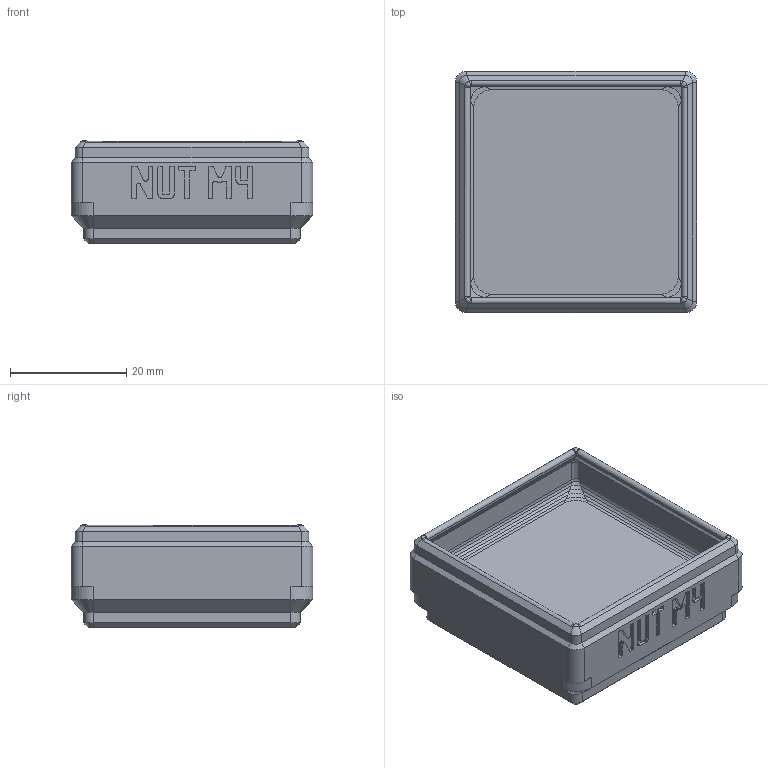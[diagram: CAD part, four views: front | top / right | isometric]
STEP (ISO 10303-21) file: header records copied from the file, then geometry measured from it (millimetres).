
FILE_DESCRIPTION(('Open CASCADE Model'),'2;1');
FILE_NAME('Open CASCADE Shape Model','2026-11-03T14:04:37',('Author'),( 'Open CASCADE'),'Open CASCADE STEP processor 8.0','build123d', 'Unknown');
FILE_SCHEMA(('AUTOMOTIVE_DESIGN { 1 0 10303 214 1 1 1 1 }'));
Length unit declared in the file: millimetre
Products named in the file (1): SOLID
Bounding box: 41.5 x 41.5 x 17.7 mm (x, y, z)
Volume: 11838.5 mm3; surface area: 10751.1 mm2
Topology: 1 solids, 2 shells, 604 faces, 1646 edges, 1052 vertices
Faces by surface type: plane 468, bspline 92, cylinder 32, cone 12
Entity records: 43732 total; most frequent: CARTESIAN_POINT 11667, DIRECTION 5568, LINE 4342, VECTOR 4342, ORIENTED_EDGE 3292, PCURVE 3292, DEFINITIONAL_REPRESENTATION 3292, EDGE_CURVE 1646
